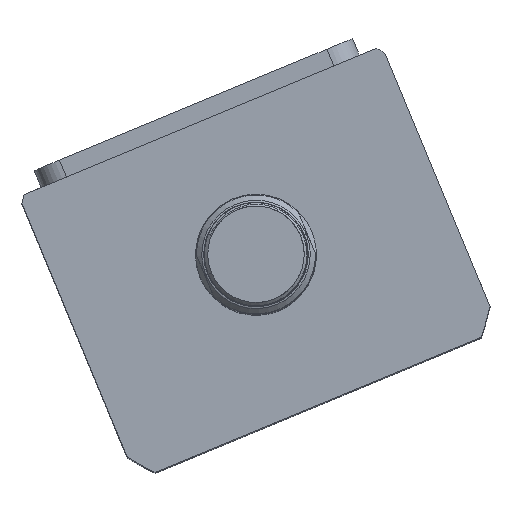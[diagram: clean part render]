
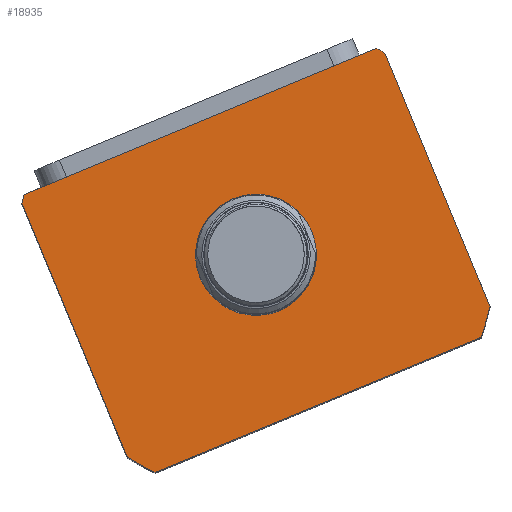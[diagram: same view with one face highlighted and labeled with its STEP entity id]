
A CAD part, top view. The second image highlights one B-rep face of the part: STEP entity #18935.
In plain terms, the highlighted planar face has unit normal (0, 0, 1) as drawn and (0, 0, -1) by its records, which use the part's own axes.
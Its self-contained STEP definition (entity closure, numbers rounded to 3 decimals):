
#73 = VERTEX_POINT ( 'NONE', #3260 ) ;
#172 = LINE ( 'NONE', #14522, #21950 ) ;
#444 = DIRECTION ( 'NONE',  ( 1., 0., 0. ) ) ;
#786 = VERTEX_POINT ( 'NONE', #11727 ) ;
#1135 = EDGE_CURVE ( 'NONE', #7352, #17967, #17550, .T. ) ;
#1829 = CARTESIAN_POINT ( 'NONE',  ( -57., -37.265, 0. ) ) ;
#2033 = DIRECTION ( 'NONE',  ( 1., 0., 0. ) ) ;
#2273 = CARTESIAN_POINT ( 'NONE',  ( 0., 2.5, 0. ) ) ;
#2344 = CIRCLE ( 'NONE', #9144, 17.5 ) ;
#2858 = CARTESIAN_POINT ( 'NONE',  ( -57., -44.5, 0. ) ) ;
#3126 = CARTESIAN_POINT ( 'NONE',  ( 0., 0., 0. ) ) ;
#3260 = CARTESIAN_POINT ( 'NONE',  ( 57., -37.265, 0. ) ) ;
#4032 = EDGE_CURVE ( 'NONE', #4269, #786, #18184, .T. ) ;
#4075 = ORIENTED_EDGE ( 'NONE', *, *, #14761, .F. ) ;
#4269 = VERTEX_POINT ( 'NONE', #21086 ) ;
#4483 = DIRECTION ( 'NONE',  ( 1., 0., 0. ) ) ;
#4740 = FACE_BOUND ( 'NONE', #22909, .T. ) ;
#5965 = ORIENTED_EDGE ( 'NONE', *, *, #25858, .T. ) ;
#6711 = VECTOR ( 'NONE', #10939, 1000. ) ;
#6938 = ORIENTED_EDGE ( 'NONE', *, *, #24598, .F. ) ;
#7056 = EDGE_CURVE ( 'NONE', #24901, #7960, #7834, .T. ) ;
#7352 = VERTEX_POINT ( 'NONE', #26799 ) ;
#7799 = CARTESIAN_POINT ( 'NONE',  ( 0., 2.5, 0. ) ) ;
#7834 = LINE ( 'NONE', #2858, #12915 ) ;
#7845 = AXIS2_PLACEMENT_3D ( 'NONE', #22513, #9595, #24677 ) ;
#7850 = CARTESIAN_POINT ( 'NONE',  ( 0., 2.5, 0. ) ) ;
#7960 = VERTEX_POINT ( 'NONE', #27650 ) ;
#8774 = CARTESIAN_POINT ( 'NONE',  ( -57., 44.5, 0. ) ) ;
#9144 = AXIS2_PLACEMENT_3D ( 'NONE', #2273, #17523, #4483 ) ;
#9368 = AXIS2_PLACEMENT_3D ( 'NONE', #12750, #27837, #14944 ) ;
#9595 = DIRECTION ( 'NONE',  ( 0., 0., 1. ) ) ;
#9751 = PLANE ( 'NONE',  #19793 ) ;
#9987 = DIRECTION ( 'NONE',  ( 1., 0., 0. ) ) ;
#10031 = DIRECTION ( 'NONE',  ( 1., 0., 0. ) ) ;
#10606 = CIRCLE ( 'NONE', #11903, 69.5 ) ;
#10939 = DIRECTION ( 'NONE',  ( -1., 0., 0. ) ) ;
#11727 = CARTESIAN_POINT ( 'NONE',  ( -17.5, 2.5, 0. ) ) ;
#11903 = AXIS2_PLACEMENT_3D ( 'NONE', #7799, #22910, #9987 ) ;
#12433 = CARTESIAN_POINT ( 'NONE',  ( 57., 42.265, 0. ) ) ;
#12484 = LINE ( 'NONE', #8774, #6711 ) ;
#12495 = VERTEX_POINT ( 'NONE', #13306 ) ;
#12585 = AXIS2_PLACEMENT_3D ( 'NONE', #28006, #15106, #2033 ) ;
#12714 = EDGE_LOOP ( 'NONE', ( #22219, #13423, #14313, #14891, #18256, #17514, #6938, #4075 ) ) ;
#12750 = CARTESIAN_POINT ( 'NONE',  ( 0., 2.5, 0. ) ) ;
#12915 = VECTOR ( 'NONE', #444, 1000. ) ;
#13140 = VECTOR ( 'NONE', #15625, 1000. ) ;
#13306 = CARTESIAN_POINT ( 'NONE',  ( 55.374, 44.5, 0. ) ) ;
#13423 = ORIENTED_EDGE ( 'NONE', *, *, #13632, .F. ) ;
#13455 = ORIENTED_EDGE ( 'NONE', *, *, #4032, .T. ) ;
#13632 = EDGE_CURVE ( 'NONE', #73, #15317, #172, .T. ) ;
#13746 = VERTEX_POINT ( 'NONE', #19043 ) ;
#14199 = DIRECTION ( 'NONE',  ( 1., 0., 0. ) ) ;
#14313 = ORIENTED_EDGE ( 'NONE', *, *, #21003, .F. ) ;
#14522 = CARTESIAN_POINT ( 'NONE',  ( 57., 44.5, 0. ) ) ;
#14537 = CIRCLE ( 'NONE', #9368, 69.5 ) ;
#14647 = EDGE_CURVE ( 'NONE', #15317, #12495, #14537, .T. ) ;
#14761 = EDGE_CURVE ( 'NONE', #12495, #13746, #12484, .T. ) ;
#14891 = ORIENTED_EDGE ( 'NONE', *, *, #7056, .F. ) ;
#14944 = DIRECTION ( 'NONE',  ( 1., 0., 0. ) ) ;
#15106 = DIRECTION ( 'NONE',  ( 0., 0., 1. ) ) ;
#15317 = VERTEX_POINT ( 'NONE', #12433 ) ;
#15625 = DIRECTION ( 'NONE',  ( 0., -1., 0. ) ) ;
#15818 = CARTESIAN_POINT ( 'NONE',  ( -57., 44.5, 0. ) ) ;
#16905 = CARTESIAN_POINT ( 'NONE',  ( -51.198, -44.5, 0. ) ) ;
#17373 = CIRCLE ( 'NONE', #12585, 69.5 ) ;
#17514 = ORIENTED_EDGE ( 'NONE', *, *, #1135, .F. ) ;
#17523 = DIRECTION ( 'NONE',  ( 0., 0., 1. ) ) ;
#17550 = LINE ( 'NONE', #15818, #13140 ) ;
#17669 = FACE_OUTER_BOUND ( 'NONE', #12714, .T. ) ;
#17967 = VERTEX_POINT ( 'NONE', #1829 ) ;
#18184 = CIRCLE ( 'NONE', #7845, 17.5 ) ;
#18256 = ORIENTED_EDGE ( 'NONE', *, *, #25455, .F. ) ;
#18935 = ADVANCED_FACE ( 'NONE', ( #4740, #17669 ), #9751, .F. ) ;
#19043 = CARTESIAN_POINT ( 'NONE',  ( -55.374, 44.5, 0. ) ) ;
#19104 = AXIS2_PLACEMENT_3D ( 'NONE', #7850, #22955, #10031 ) ;
#19793 = AXIS2_PLACEMENT_3D ( 'NONE', #3126, #27082, #14199 ) ;
#21003 = EDGE_CURVE ( 'NONE', #7960, #73, #21659, .T. ) ;
#21086 = CARTESIAN_POINT ( 'NONE',  ( 17.5, 2.5, 0. ) ) ;
#21106 = DIRECTION ( 'NONE',  ( 0., 1., 0. ) ) ;
#21659 = CIRCLE ( 'NONE', #19104, 69.5 ) ;
#21950 = VECTOR ( 'NONE', #21106, 1000. ) ;
#22219 = ORIENTED_EDGE ( 'NONE', *, *, #14647, .F. ) ;
#22513 = CARTESIAN_POINT ( 'NONE',  ( 0., 2.5, 0. ) ) ;
#22909 = EDGE_LOOP ( 'NONE', ( #13455, #5965 ) ) ;
#22910 = DIRECTION ( 'NONE',  ( 0., 0., 1. ) ) ;
#22955 = DIRECTION ( 'NONE',  ( 0., 0., 1. ) ) ;
#24598 = EDGE_CURVE ( 'NONE', #13746, #7352, #10606, .T. ) ;
#24677 = DIRECTION ( 'NONE',  ( 1., 0., 0. ) ) ;
#24901 = VERTEX_POINT ( 'NONE', #16905 ) ;
#25455 = EDGE_CURVE ( 'NONE', #17967, #24901, #17373, .T. ) ;
#25858 = EDGE_CURVE ( 'NONE', #786, #4269, #2344, .T. ) ;
#26799 = CARTESIAN_POINT ( 'NONE',  ( -57., 42.265, 0. ) ) ;
#27082 = DIRECTION ( 'NONE',  ( 0., 0., 1. ) ) ;
#27650 = CARTESIAN_POINT ( 'NONE',  ( 51.198, -44.5, 0. ) ) ;
#27837 = DIRECTION ( 'NONE',  ( 0., 0., 1. ) ) ;
#28006 = CARTESIAN_POINT ( 'NONE',  ( 0., 2.5, 0. ) ) ;
